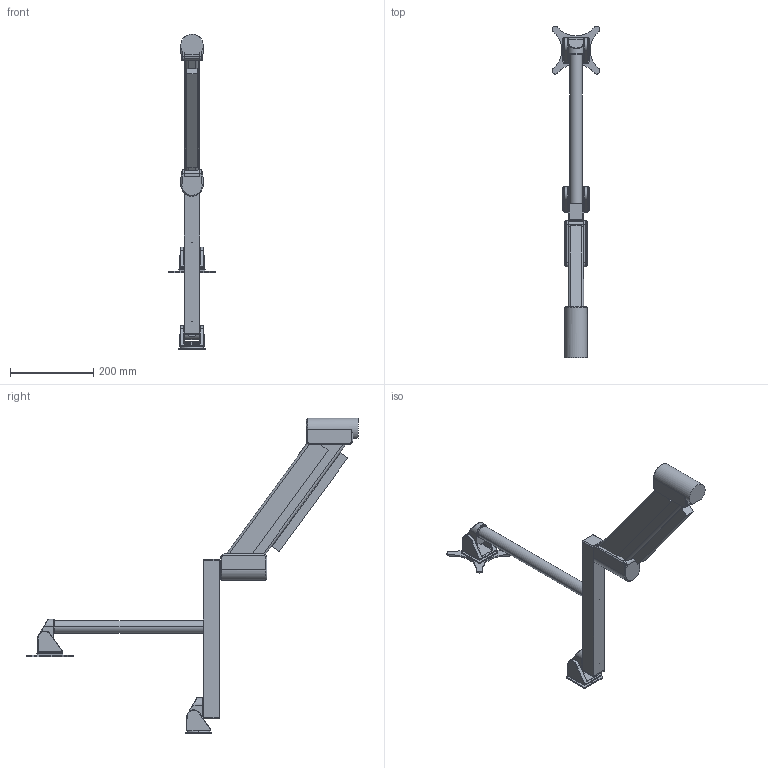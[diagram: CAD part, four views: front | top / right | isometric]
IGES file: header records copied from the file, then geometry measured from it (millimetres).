
Global section: file name: No Iges File Name specified; native system: Autodesk Inventor 2010; preprocessor: AutoDesk Inventor Iges Exporter R2010; author: abrey; date: 20100420.142001; units: inch
Bounding box: 115.01 x 797.54 x 758.51 mm (x, y, z)
Volume: 3196521.5 mm3; surface area: 407087.7 mm2
Topology: 19 solids, 19 shells, 339 faces, 789 edges, 477 vertices
Faces by surface type: plane 114, cylinder 98, bspline 69, revolution 38, sphere 12, torus 8
